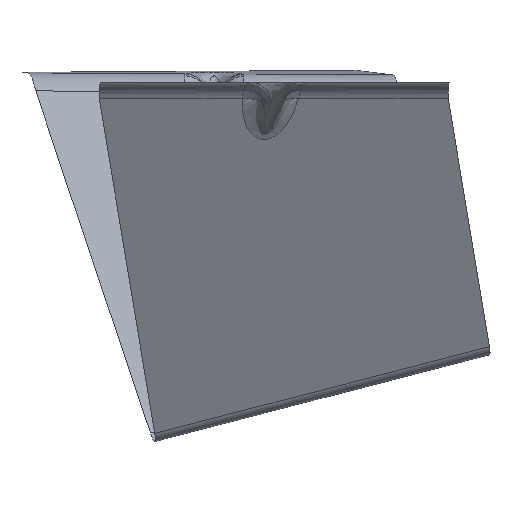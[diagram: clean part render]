
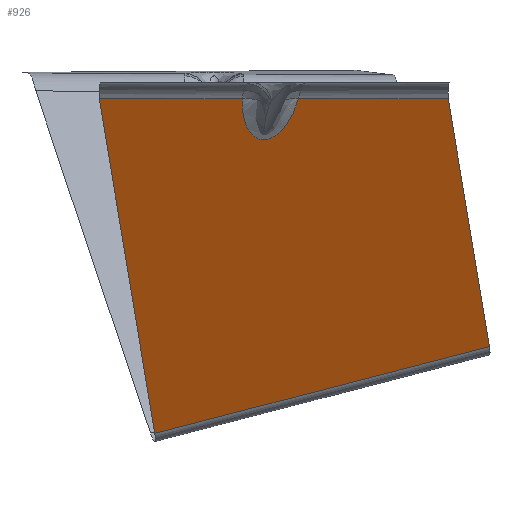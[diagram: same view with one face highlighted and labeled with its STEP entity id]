
A CAD part, left-side view. The second image highlights one B-rep face of the part: STEP entity #926.
In plain terms, the highlighted planar face has unit normal (-0.83, -0.249, -0.5).
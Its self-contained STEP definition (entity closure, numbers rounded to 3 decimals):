
#421=CARTESIAN_POINT('Vertex',(-108.73,9.455,-0.2)) ;
#684=CARTESIAN_POINT('Control Point',(-103.901,-6.644,-0.2)) ;
#685=CARTESIAN_POINT('Control Point',(-103.666,-6.514,-0.654)) ;
#686=CARTESIAN_POINT('Control Point',(-103.435,-6.374,-1.108)) ;
#687=CARTESIAN_POINT('Control Point',(-103.207,-6.224,-1.561)) ;
#688=CARTESIAN_POINT('Control Point',(-102.563,-5.761,-2.859)) ;
#689=CARTESIAN_POINT('Control Point',(-101.953,-5.205,-4.148)) ;
#690=CARTESIAN_POINT('Control Point',(-101.572,-4.801,-4.98)) ;
#691=CARTESIAN_POINT('Control Point',(-101.056,-4.156,-6.158)) ;
#692=CARTESIAN_POINT('Control Point',(-100.593,-3.389,-7.308)) ;
#693=CARTESIAN_POINT('Control Point',(-100.459,-3.148,-7.649)) ;
#694=CARTESIAN_POINT('Control Point',(-100.224,-2.678,-8.274)) ;
#695=CARTESIAN_POINT('Control Point',(-100.013,-2.157,-8.882)) ;
#696=CARTESIAN_POINT('Control Point',(-99.922,-1.906,-9.158)) ;
#697=CARTESIAN_POINT('Control Point',(-99.714,-1.249,-9.831)) ;
#698=CARTESIAN_POINT('Control Point',(-99.558,-0.502,-10.461)) ;
#699=CARTESIAN_POINT('Control Point',(-99.489,-0.016,-10.818)) ;
#700=CARTESIAN_POINT('Control Point',(-99.434,0.81,-11.321)) ;
#701=CARTESIAN_POINT('Control Point',(-99.5,1.756,-11.682)) ;
#702=CARTESIAN_POINT('Control Point',(-99.542,2.106,-11.787)) ;
#703=CARTESIAN_POINT('Control Point',(-99.643,2.686,-11.907)) ;
#704=CARTESIAN_POINT('Control Point',(-99.8,3.271,-11.939)) ;
#705=CARTESIAN_POINT('Control Point',(-99.866,3.491,-11.937)) ;
#706=CARTESIAN_POINT('Control Point',(-100.064,4.069,-11.898)) ;
#707=CARTESIAN_POINT('Control Point',(-100.303,4.61,-11.77)) ;
#708=CARTESIAN_POINT('Control Point',(-100.465,4.926,-11.659)) ;
#709=CARTESIAN_POINT('Control Point',(-100.929,5.734,-11.291)) ;
#710=CARTESIAN_POINT('Control Point',(-101.425,6.379,-10.789)) ;
#711=CARTESIAN_POINT('Control Point',(-101.743,6.736,-10.44)) ;
#712=CARTESIAN_POINT('Control Point',(-102.276,7.264,-9.818)) ;
#713=CARTESIAN_POINT('Control Point',(-102.803,7.691,-9.156)) ;
#714=CARTESIAN_POINT('Control Point',(-103.016,7.849,-8.881)) ;
#715=CARTESIAN_POINT('Control Point',(-103.491,8.177,-8.256)) ;
#716=CARTESIAN_POINT('Control Point',(-103.959,8.445,-7.613)) ;
#717=CARTESIAN_POINT('Control Point',(-104.217,8.579,-7.253)) ;
#718=CARTESIAN_POINT('Control Point',(-105.15,9.016,-5.921)) ;
#719=CARTESIAN_POINT('Control Point',(-106.055,9.282,-4.552)) ;
#720=CARTESIAN_POINT('Control Point',(-106.696,9.406,-3.551)) ;
#721=CARTESIAN_POINT('Control Point',(-107.489,9.487,-2.276)) ;
#722=CARTESIAN_POINT('Control Point',(-108.259,9.48,-0.994)) ;
#723=CARTESIAN_POINT('Control Point',(-108.417,9.475,-0.73)) ;
#724=CARTESIAN_POINT('Control Point',(-108.574,9.467,-0.465)) ;
#725=CARTESIAN_POINT('Control Point',(-108.73,9.455,-0.2)) ;
#726=CARTESIAN_POINT('Vertex',(-103.901,-6.644,-0.2)) ;
#880=CARTESIAN_POINT('Axis2P3D Location',(-47.872,-14.362,-89.31)) ;
#885=CARTESIAN_POINT('Line Origine',(-114.875,29.938,-0.2)) ;
#889=CARTESIAN_POINT('Vertex',(-121.021,50.422,-0.2)) ;
#892=CARTESIAN_POINT('Line Origine',(-89.74,42.469,-48.137)) ;
#896=CARTESIAN_POINT('Vertex',(-58.459,34.516,-96.074)) ;
#899=CARTESIAN_POINT('Line Origine',(-51.578,-13.42,-83.631)) ;
#903=CARTESIAN_POINT('Vertex',(-44.698,-61.355,-71.189)) ;
#906=CARTESIAN_POINT('Line Origine',(-67.859,-55.467,-35.694)) ;
#910=CARTESIAN_POINT('Vertex',(-91.021,-49.578,-0.2)) ;
#913=CARTESIAN_POINT('Line Origine',(-97.461,-28.111,-0.2)) ;
#881=DIRECTION('Axis2P3D Direction',(0.83,0.249,0.5)) ;
#882=DIRECTION('Axis2P3D XDirection',(0.541,-0.138,-0.83)) ;
#886=DIRECTION('Vector Direction',(0.287,-0.958,0.)) ;
#893=DIRECTION('Vector Direction',(0.541,-0.138,-0.83)) ;
#900=DIRECTION('Vector Direction',(0.138,-0.959,0.249)) ;
#907=DIRECTION('Vector Direction',(-0.541,0.138,0.83)) ;
#914=DIRECTION('Vector Direction',(0.287,-0.958,0.)) ;
#883=AXIS2_PLACEMENT_3D('Plane Axis2P3D',#880,#881,#882) ;
#919=ORIENTED_EDGE('',*,*,#728,.T.) ;
#920=ORIENTED_EDGE('',*,*,#891,.F.) ;
#921=ORIENTED_EDGE('',*,*,#898,.T.) ;
#922=ORIENTED_EDGE('',*,*,#905,.T.) ;
#923=ORIENTED_EDGE('',*,*,#912,.T.) ;
#924=ORIENTED_EDGE('',*,*,#917,.F.) ;
#887=VECTOR('Line Direction',#886,1.) ;
#894=VECTOR('Line Direction',#893,1.) ;
#901=VECTOR('Line Direction',#900,1.) ;
#908=VECTOR('Line Direction',#907,1.) ;
#915=VECTOR('Line Direction',#914,1.) ;
#926=ADVANCED_FACE('Extract.1',(#925),#884,.F.) ;
#683=B_SPLINE_CURVE_WITH_KNOTS('',5,(#684,#685,#686,#687,#688,#689,#690,#691,#692,#693,#694,#695,#696,#697,#698,#699,#700,#701,#702,#703,#704,#705,#706,#707,#708,#709,#710,#711,#712,#713,#714,#715,#716,#717,#718,#719,#720,#721,#722,#723,#724,#725),.UNSPECIFIED.,.F.,.U.,(6,3,3,3,3,3,3,3,3,3,3,3,3,6),(30.977,34.474,41.02,43.81,46.195,49.733,51.668,52.842,54.806,58.265,60.637,63.583,71.436,73.475),.UNSPECIFIED.) ;
#728=EDGE_CURVE('',#727,#422,#683,.T.) ;
#891=EDGE_CURVE('',#890,#422,#888,.T.) ;
#898=EDGE_CURVE('',#890,#897,#895,.T.) ;
#905=EDGE_CURVE('',#897,#904,#902,.T.) ;
#912=EDGE_CURVE('',#904,#911,#909,.T.) ;
#917=EDGE_CURVE('',#727,#911,#916,.T.) ;
#918=EDGE_LOOP('',(#919,#920,#921,#922,#923,#924)) ;
#925=FACE_OUTER_BOUND('',#918,.T.) ;
#888=LINE('Line',#885,#887) ;
#895=LINE('Line',#892,#894) ;
#902=LINE('Line',#899,#901) ;
#909=LINE('Line',#906,#908) ;
#916=LINE('Line',#913,#915) ;
#884=PLANE('',#883) ;
#422=VERTEX_POINT('',#421) ;
#727=VERTEX_POINT('',#726) ;
#890=VERTEX_POINT('',#889) ;
#897=VERTEX_POINT('',#896) ;
#904=VERTEX_POINT('',#903) ;
#911=VERTEX_POINT('',#910) ;
